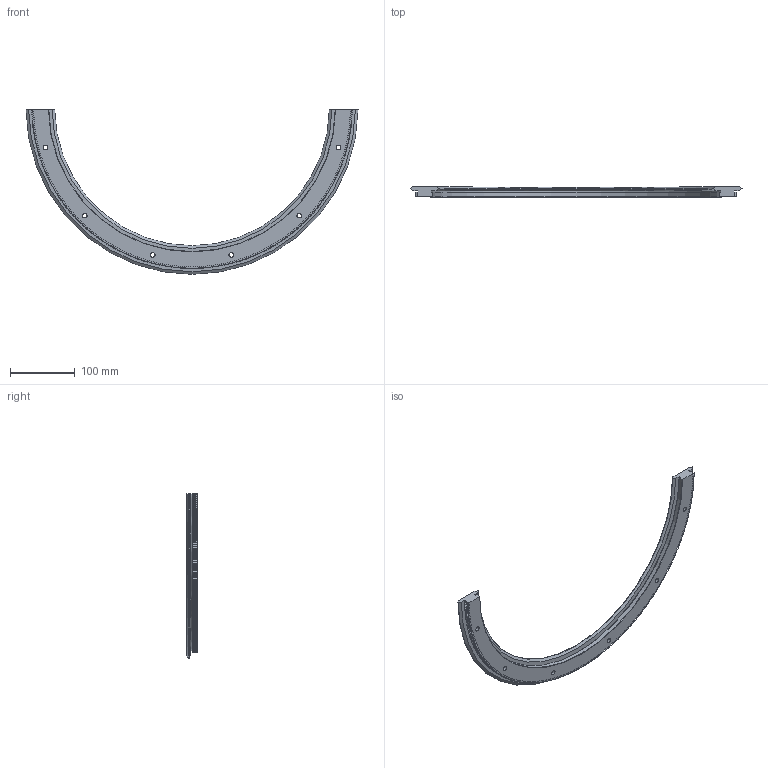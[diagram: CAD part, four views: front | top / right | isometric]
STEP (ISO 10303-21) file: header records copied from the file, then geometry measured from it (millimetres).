
FILE_DESCRIPTION( ( 'STEP AP203' ), '1' );
FILE_NAME( 'p:/temp/worker_20/temp/exporttempdir_3124_269_KkSop/format_0/R44 468 R180 P.stp', '2021-07-19T05:40:47', ( 'License CC BY-ND 4.0' ), ( 'CADENAS' ), ' ', 'PARTsolutions', ' ' );
FILE_SCHEMA( ( 'CONFIG_CONTROL_DESIGN' ) );
Length unit declared in the file: millimetre
Products named in the file (1): _R44 468 R180 P
Bounding box: 512.17 x 15.5 x 254.09 mm (x, y, z)
Volume: 337141.5 mm3; surface area: 97260.3 mm2
Topology: 1 solids, 1 shells, 1510 faces, 4012 edges, 2510 vertices
Faces by surface type: plane 992, cylinder 260, cone 256, torus 2
Full cylindrical faces by diameter (mm): 6.8 x6, 11 x6
Entity records: 46968 total; most frequent: CARTESIAN_POINT 9538, ORIENTED_EDGE 7988, DIRECTION 7780, EDGE_CURVE 3994, AXIS2_PLACEMENT_3D 2779, VERTEX_POINT 2511, LINE 2222, VECTOR 2222
